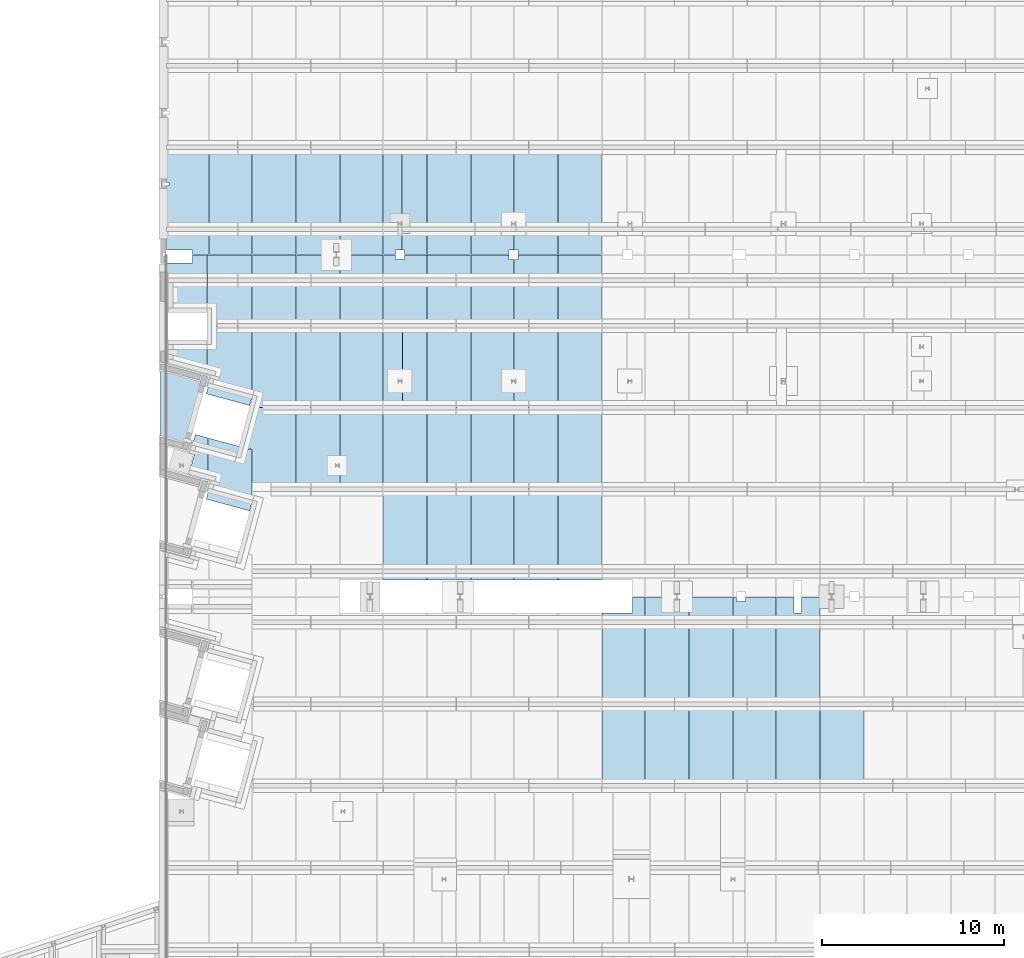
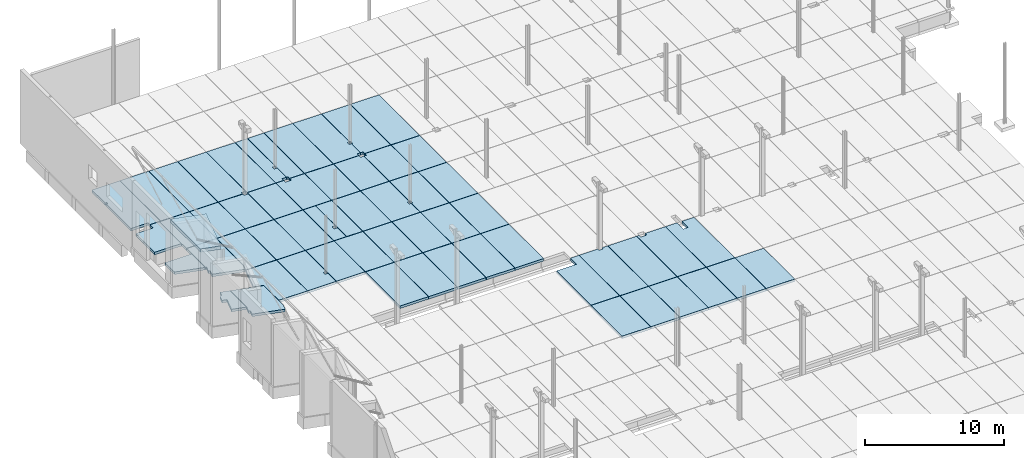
# One storey, part 49 of 59: 59 slabs.
"""IFC2X3 building model written with IfcOpenShell, lengths in metres."""

from ifc_helpers import new_model, entity, si_unit, converted_unit, derived_unit, frame, frame_2d, origin, origin_with_axes, place, context, subcontext, project, spatial, polyline, rectangle, outline, extrude, material, element, save


model = new_model("IFC2X3")

# Units and contexts
model_context = context("Model", 3, precision=1e-05, world=origin())
body_context = subcontext(model_context, "Body", "Model", "MODEL_VIEW")
ifc_project = project(units=[si_unit("LENGTHUNIT", "METRE"), si_unit("AREAUNIT", "SQUARE_METRE"), si_unit("VOLUMEUNIT", "CUBIC_METRE"), si_unit("MASSUNIT", "GRAM", prefix="KILO"), converted_unit("PLANEANGLEUNIT", "DEGREE", entity("IfcPlaneAngleMeasure", 0.0174532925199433), si_unit("PLANEANGLEUNIT", "RADIAN"), dimensions=[0, 0, 0, 0, 0, 0, 0]), derived_unit("THERMALTRANSMITTANCEUNIT", [(si_unit("POWERUNIT", "WATT"), 1), (si_unit("THERMODYNAMICTEMPERATUREUNIT", "KELVIN"), -1), (si_unit("LENGTHUNIT", "METRE"), -2)]), derived_unit("VOLUMETRICFLOWRATEUNIT", [(si_unit("LENGTHUNIT", "METRE"), 3), (converted_unit("TIMEUNIT", "hour", entity("IfcTimeMeasure", 3600.0), si_unit("TIMEUNIT", "SECOND"), dimensions=[0, 0, 1, 0, 0, 0, 0]), -1), (si_unit("LENGTHUNIT", "METRE"), -1)])], contexts=[model_context])

# Site, building, storey
site_placement = place(None, origin())
site = spatial("IfcSite", under=ifc_project, at=site_placement, Name="TWP_Speiseverteilzentrum SBW VZ II", CompositionType="ELEMENT")
building_placement = place(site_placement, origin())
building = spatial("IfcBuilding", under=site, at=building_placement, Name="Speiseverteilzentrum SBW VZ II", CompositionType="ELEMENT")
storey_placement = place(building_placement, frame((0.0, 0.0, 1.7307)))
storey = spatial("IfcBuildingStorey", under=building, at=storey_placement, Name="EG_Produktion_FFB", CompositionType="ELEMENT", Elevation=1.7307)

# Slabs
ifc_material_1 = material(Name="Stahlbeton")
slab_1_placement = place(storey_placement, frame((9.33999999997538, 59.6568273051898, 4.2)))
element("IfcSlab", 1, at=slab_1_placement, inside=storey, material=ifc_material_1, Name="Stb.-Rahmen", PredefinedType="ROOF", context=body_context, shape_type="SweptSolid", body=[
    extrude(outline(polyline([(0.0, 4.75349654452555), (0.0, 0.40340457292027), (1.49195659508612, 0.0), (2.58802923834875, 4.05372898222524), (0.0, 4.75349654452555)])), origin_with_axes(), (0.0, 0.0, 1.0), 0.3),
])
ifc_material_2 = material(Name="Stahlbetonfertigteil")
slab_2_placement = place(storey_placement, frame((28.7999999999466, 62.0100000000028, -0.47)))
element("IfcSlab", 2, at=slab_2_placement, inside=storey, material=ifc_material_2, Name="Stahlbetonfertigteilplatte", PredefinedType="BASESLAB", context=body_context, shape_type="SweptSolid", body=[
    extrude(outline(polyline([(0.0, 1.58790584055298), (0.100000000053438, 1.58790584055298), (0.100000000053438, 1.29790584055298), (0.0, 1.29790584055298), (0.0, 0.0), (2.38, 0.0), (2.38, 4.47999999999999), (0.0, 4.47999999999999), (0.0, 1.58790584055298)])), origin_with_axes(), (0.0, 0.0, 1.0), 0.22),
])
ifc_material_3 = material(Name="Stahlbetonfertigteil")
slab_3_placement = place(storey_placement, frame((26.3999999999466, 62.0100000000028, -0.47)))
element("IfcSlab", 3, at=slab_3_placement, inside=storey, material=ifc_material_3, Name="Stahlbetonfertigteilplatte", PredefinedType="BASESLAB", context=body_context, shape_type="SweptSolid", body=[
    extrude(outline(polyline([(2.20000000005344, 1.58790584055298), (2.38, 1.58790584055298), (2.38, 4.47999999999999), (0.0, 4.47999999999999), (0.0, 0.0), (2.38, 0.0), (2.38, 1.29790584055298), (2.20000000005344, 1.29790584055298), (2.20000000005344, 1.58790584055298)])), origin_with_axes(), (0.0, 0.0, 1.0), 0.22),
])
ifc_material_4 = material(Name="Stahlbetonfertigteil")
slab_4_placement = place(storey_placement, frame((21.5999999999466, 62.0100000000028, -0.47)))
element("IfcSlab", 4, at=slab_4_placement, inside=storey, material=ifc_material_4, Name="Stahlbetonfertigteilplatte", PredefinedType="BASESLAB", context=body_context, shape_type="SweptSolid", body=[
    extrude(outline(polyline([(0.750000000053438, 1.58790584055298), (1.03000000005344, 1.58790584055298), (1.03000000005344, 4.47999999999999), (0.0, 4.47999999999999), (0.0, 0.0), (1.03000000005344, 0.0), (1.03000000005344, 1.29790584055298), (0.750000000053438, 1.29790584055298), (0.750000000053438, 1.58790584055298)])), origin_with_axes(), (0.0, 0.0, 1.0), 0.22),
])
ifc_material_5 = material(Name="Stahlbetonfertigteil")
slab_5_placement = place(storey_placement, frame((22.65, 62.0100000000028, -0.47)))
element("IfcSlab", 5, at=slab_5_placement, inside=storey, material=ifc_material_5, Name="Stahlbetonfertigteilplatte", PredefinedType="BASESLAB", context=body_context, shape_type="SweptSolid", body=[
    extrude(rectangle(XDim=4.47999999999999, YDim=1.32999999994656, at=frame_2d((0.664999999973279, -2.23999999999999), x_axis=(0.0, -1.0))), frame((0.0, 4.47999999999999, 0.0), z_axis=(0.0, 0.0, 1.0), x_axis=(1.0, 0.0, 0.0)), (0.0, 0.0, 1.0), 0.22),
])
ifc_material_6 = material(Name="Stahlbetonfertigteil")
slab_6_placement = place(storey_placement, frame((16.7999999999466, 62.0100000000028, -0.47)))
element("IfcSlab", 6, at=slab_6_placement, inside=storey, material=ifc_material_6, Name="Stahlbetonfertigteilplatte", PredefinedType="BASESLAB", context=body_context, shape_type="SweptSolid", body=[
    extrude(rectangle(XDim=4.47999999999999, YDim=2.38, at=frame_2d((1.19, -2.23999999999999), x_axis=(0.0, -1.0))), frame((0.0, 4.47999999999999, 0.0), z_axis=(0.0, 0.0, 1.0), x_axis=(1.0, 0.0, 0.0)), (0.0, 0.0, 1.0), 0.22),
])
ifc_material_7 = material(Name="Stahlbetonfertigteil")
slab_7_placement = place(storey_placement, frame((19.1999999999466, 62.0100000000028, -0.47)))
element("IfcSlab", 7, at=slab_7_placement, inside=storey, material=ifc_material_7, Name="Stahlbetonfertigteilplatte", PredefinedType="BASESLAB", context=body_context, shape_type="SweptSolid", body=[
    extrude(rectangle(XDim=4.47999999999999, YDim=2.38, at=frame_2d((1.19, -2.23999999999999), x_axis=(0.0, -1.0))), frame((0.0, 4.47999999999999, 0.0), z_axis=(0.0, 0.0, 1.0), x_axis=(1.0, 0.0, 0.0)), (0.0, 0.0, 1.0), 0.22),
])
ifc_material_8 = material(Name="Stahlbetonfertigteil")
slab_8_placement = place(storey_placement, frame((19.1999999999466, 57.5100000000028, -0.47)))
element("IfcSlab", 8, at=slab_8_placement, inside=storey, material=ifc_material_8, Name="Stahlbetonfertigteilplatte", PredefinedType="BASESLAB", context=body_context, shape_type="SweptSolid", body=[
    extrude(rectangle(XDim=4.47999999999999, YDim=2.38, at=frame_2d((1.19, -2.23999999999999), x_axis=(0.0, -1.0))), frame((0.0, 4.47999999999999, 0.0), z_axis=(0.0, 0.0, 1.0), x_axis=(1.0, 0.0, 0.0)), (0.0, 0.0, 1.0), 0.22),
])
ifc_material_9 = material(Name="Stahlbetonfertigteil")
slab_9_placement = place(storey_placement, frame((21.5999999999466, 57.5100000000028, -0.47)))
element("IfcSlab", 9, at=slab_9_placement, inside=storey, material=ifc_material_9, Name="Stahlbetonfertigteilplatte", PredefinedType="BASESLAB", context=body_context, shape_type="SweptSolid", body=[
    extrude(rectangle(XDim=4.47999999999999, YDim=2.38, at=frame_2d((1.19, -2.23999999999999), x_axis=(0.0, -1.0))), frame((0.0, 4.47999999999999, 0.0), z_axis=(0.0, 0.0, 1.0), x_axis=(1.0, 0.0, 0.0)), (0.0, 0.0, 1.0), 0.22),
])
ifc_material_10 = material(Name="Stahlbetonfertigteil")
slab_10_placement = place(storey_placement, frame((23.9999999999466, 62.0100000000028, -0.47)))
element("IfcSlab", 10, at=slab_10_placement, inside=storey, material=ifc_material_10, Name="Stahlbetonfertigteilplatte", PredefinedType="BASESLAB", context=body_context, shape_type="SweptSolid", body=[
    extrude(rectangle(XDim=4.47999999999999, YDim=2.38, at=frame_2d((1.19, -2.23999999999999), x_axis=(0.0, -1.0))), frame((0.0, 4.47999999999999, 0.0), z_axis=(0.0, 0.0, 1.0), x_axis=(1.0, 0.0, 0.0)), (0.0, 0.0, 1.0), 0.22),
])
ifc_material_11 = material(Name="Stahlbetonfertigteil")
slab_11_placement = place(storey_placement, frame((23.9999999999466, 57.5100000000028, -0.47)))
element("IfcSlab", 11, at=slab_11_placement, inside=storey, material=ifc_material_11, Name="Stahlbetonfertigteilplatte", PredefinedType="BASESLAB", context=body_context, shape_type="SweptSolid", body=[
    extrude(rectangle(XDim=4.47999999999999, YDim=2.38, at=frame_2d((1.19, -2.23999999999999), x_axis=(0.0, -1.0))), frame((0.0, 4.47999999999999, 0.0), z_axis=(0.0, 0.0, 1.0), x_axis=(1.0, 0.0, 0.0)), (0.0, 0.0, 1.0), 0.22),
])
ifc_material_12 = material(Name="Stahlbetonfertigteil")
slab_12_placement = place(storey_placement, frame((26.3999999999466, 57.5100000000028, -0.47)))
element("IfcSlab", 12, at=slab_12_placement, inside=storey, material=ifc_material_12, Name="Stahlbetonfertigteilplatte", PredefinedType="BASESLAB", context=body_context, shape_type="SweptSolid", body=[
    extrude(rectangle(XDim=4.47999999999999, YDim=2.38, at=frame_2d((1.19, -2.23999999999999), x_axis=(0.0, -1.0))), frame((0.0, 4.47999999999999, 0.0), z_axis=(0.0, 0.0, 1.0), x_axis=(1.0, 0.0, 0.0)), (0.0, 0.0, 1.0), 0.22),
])
ifc_material_13 = material(Name="Stahlbetonfertigteil")
slab_13_placement = place(storey_placement, frame((31.1999999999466, 62.0100000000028, -0.47)))
element("IfcSlab", 13, at=slab_13_placement, inside=storey, material=ifc_material_13, Name="Stahlbetonfertigteilplatte", PredefinedType="BASESLAB", context=body_context, shape_type="SweptSolid", body=[
    extrude(rectangle(XDim=4.47999999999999, YDim=2.38, at=frame_2d((1.19, -2.23999999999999), x_axis=(0.0, -1.0))), frame((0.0, 4.47999999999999, 0.0), z_axis=(0.0, 0.0, 1.0), x_axis=(1.0, 0.0, 0.0)), (0.0, 0.0, 1.0), 0.22),
])
ifc_material_14 = material(Name="Stahlbetonfertigteil")
slab_14_placement = place(storey_placement, frame((28.7999999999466, 57.5100000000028, -0.47)))
element("IfcSlab", 14, at=slab_14_placement, inside=storey, material=ifc_material_14, Name="Stahlbetonfertigteilplatte", PredefinedType="BASESLAB", context=body_context, shape_type="SweptSolid", body=[
    extrude(rectangle(XDim=4.47999999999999, YDim=2.38, at=frame_2d((1.19, -2.23999999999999), x_axis=(0.0, -1.0))), frame((0.0, 4.47999999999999, 0.0), z_axis=(0.0, 0.0, 1.0), x_axis=(1.0, 0.0, 0.0)), (0.0, 0.0, 1.0), 0.22),
])
ifc_material_15 = material(Name="Stahlbetonfertigteil")
slab_15_placement = place(storey_placement, frame((31.1999999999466, 57.5100000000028, -0.47)))
element("IfcSlab", 15, at=slab_15_placement, inside=storey, material=ifc_material_15, Name="Stahlbetonfertigteilplatte", PredefinedType="BASESLAB", context=body_context, shape_type="SweptSolid", body=[
    extrude(rectangle(XDim=4.47999999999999, YDim=2.38, at=frame_2d((1.19, -2.23999999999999), x_axis=(0.0, -1.0))), frame((0.0, 4.47999999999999, 0.0), z_axis=(0.0, 0.0, 1.0), x_axis=(1.0, 0.0, 0.0)), (0.0, 0.0, 1.0), 0.22),
])
ifc_material_16 = material(Name="Stahlbetonfertigteil")
slab_16_placement = place(storey_placement, frame((16.7999999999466, 57.5100000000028, -0.47)))
element("IfcSlab", 16, at=slab_16_placement, inside=storey, material=ifc_material_16, Name="Stahlbetonfertigteilplatte", PredefinedType="BASESLAB", context=body_context, shape_type="SweptSolid", body=[
    extrude(outline(polyline([(2.12991185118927, 1.43253675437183), (2.38, 1.43253675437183), (2.38, 4.47999999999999), (0.0, 4.47999999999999), (0.0, 0.0), (2.38, 0.0), (2.38, 1.18253675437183), (2.12991185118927, 1.18253675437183), (2.12991185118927, 1.43253675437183)])), origin_with_axes(), (0.0, 0.0, 1.0), 0.22),
])
ifc_material_17 = material(Name="Stahlbetonfertigteil")
slab_17_placement = place(storey_placement, frame((33.5999999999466, 41.2100000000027, -0.47)))
element("IfcSlab", 17, at=slab_17_placement, inside=storey, material=ifc_material_17, Name="Stahlbetonfertigteilplatte", PredefinedType="BASESLAB", context=body_context, shape_type="SweptSolid", body=[
    extrude(rectangle(XDim=4.47999999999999, YDim=2.38, at=frame_2d((1.19, -2.23999999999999), x_axis=(0.0, -1.0))), frame((0.0, 4.47999999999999, 0.0), z_axis=(0.0, 0.0, 1.0), x_axis=(1.0, 0.0, 0.0)), (0.0, 0.0, 1.0), 0.22),
])
ifc_material_18 = material(Name="Stahlbetonfertigteil")
slab_18_placement = place(storey_placement, frame((35.9999999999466, 41.2100000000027, -0.47)))
element("IfcSlab", 18, at=slab_18_placement, inside=storey, material=ifc_material_18, Name="Stahlbetonfertigteilplatte", PredefinedType="BASESLAB", context=body_context, shape_type="SweptSolid", body=[
    extrude(rectangle(XDim=4.47999999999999, YDim=2.38, at=frame_2d((1.19, -2.23999999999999), x_axis=(0.0, -1.0))), frame((0.0, 4.47999999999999, 0.0), z_axis=(0.0, 0.0, 1.0), x_axis=(1.0, 0.0, 0.0)), (0.0, 0.0, 1.0), 0.22),
])
ifc_material_19 = material(Name="Stahlbetonfertigteil")
slab_19_placement = place(storey_placement, frame((38.3999999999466, 41.2100000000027, -0.47)))
element("IfcSlab", 19, at=slab_19_placement, inside=storey, material=ifc_material_19, Name="Stahlbetonfertigteilplatte", PredefinedType="BASESLAB", context=body_context, shape_type="SweptSolid", body=[
    extrude(rectangle(XDim=4.47999999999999, YDim=2.38, at=frame_2d((1.19, -2.23999999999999), x_axis=(0.0, -1.0))), frame((0.0, 4.47999999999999, 0.0), z_axis=(0.0, 0.0, 1.0), x_axis=(1.0, 0.0, 0.0)), (0.0, 0.0, 1.0), 0.22),
])
ifc_material_20 = material(Name="Stahlbetonfertigteil")
slab_20_placement = place(storey_placement, frame((40.7999999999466, 41.2100000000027, -0.47)))
element("IfcSlab", 20, at=slab_20_placement, inside=storey, material=ifc_material_20, Name="Stahlbetonfertigteilplatte", PredefinedType="BASESLAB", context=body_context, shape_type="SweptSolid", body=[
    extrude(rectangle(XDim=4.47999999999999, YDim=2.38, at=frame_2d((1.19, -2.23999999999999), x_axis=(0.0, -1.0))), frame((0.0, 4.47999999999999, 0.0), z_axis=(0.0, 0.0, 1.0), x_axis=(1.0, 0.0, 0.0)), (0.0, 0.0, 1.0), 0.22),
])
ifc_material_21 = material(Name="Stahlbetonfertigteil")
slab_21_placement = place(storey_placement, frame((43.1999999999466, 41.2100000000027, -0.47)))
element("IfcSlab", 21, at=slab_21_placement, inside=storey, material=ifc_material_21, Name="Stahlbetonfertigteilplatte", PredefinedType="BASESLAB", context=body_context, shape_type="SweptSolid", body=[
    extrude(rectangle(XDim=4.47999999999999, YDim=2.38, at=frame_2d((1.19, -2.23999999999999), x_axis=(0.0, -1.0))), frame((0.0, 4.47999999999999, 0.0), z_axis=(0.0, 0.0, 1.0), x_axis=(1.0, 0.0, 0.0)), (0.0, 0.0, 1.0), 0.22),
])
ifc_material_22 = material(Name="Stahlbetonfertigteil")
slab_22_placement = place(storey_placement, frame((45.5999999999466, 41.2100000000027, -0.47)))
element("IfcSlab", 22, at=slab_22_placement, inside=storey, material=ifc_material_22, Name="Stahlbetonfertigteilplatte", PredefinedType="BASESLAB", context=body_context, shape_type="SweptSolid", body=[
    extrude(rectangle(XDim=4.47999999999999, YDim=2.38, at=frame_2d((1.19, -2.23999999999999), x_axis=(0.0, -1.0))), frame((0.0, 4.47999999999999, 0.0), z_axis=(0.0, 0.0, 1.0), x_axis=(1.0, 0.0, 0.0)), (0.0, 0.0, 1.0), 0.22),
])
ifc_material_23 = material(Name="Stahlbetonfertigteil")
slab_23_placement = place(storey_placement, frame((22.63325, 70.4104127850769, -0.47)))
element("IfcSlab", 23, at=slab_23_placement, inside=storey, material=ifc_material_23, Name="Stahlbetonfertigteilplatte", PredefinedType="BASESLAB", context=body_context, shape_type="SweptSolid", body=[
    extrude(outline(polyline([(1.34674999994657, 5.87958721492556), (0.0, 5.87958721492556), (0.0, 0.239587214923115), (0.116749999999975, 0.239587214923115), (0.116749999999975, 0.0), (1.34674999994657, 0.0), (1.34674999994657, 5.87958721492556)])), origin_with_axes(), (0.0, 0.0, 1.0), 0.22),
])
ifc_material_24 = material(Name="Stahlbetonfertigteil")
slab_24_placement = place(storey_placement, frame((16.7999999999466, 70.4104127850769, -0.47)))
element("IfcSlab", 24, at=slab_24_placement, inside=storey, material=ifc_material_24, Name="Stahlbetonfertigteilplatte", PredefinedType="BASESLAB", context=body_context, shape_type="SweptSolid", body=[
    extrude(outline(polyline([(2.38, 0.17469041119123), (2.38, 5.87958721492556), (0.0, 5.87958721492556), (0.0, 0.0), (2.02000000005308, 0.0), (2.02000000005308, 0.17469041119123), (2.38, 0.17469041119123)])), origin_with_axes(), (0.0, 0.0, 1.0), 0.22),
])
ifc_material_25 = material(Name="Stahlbetonfertigteil")
slab_25_placement = place(storey_placement, frame((16.7999999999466, 66.5102063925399, -0.47)))
element("IfcSlab", 25, at=slab_25_placement, inside=storey, material=ifc_material_25, Name="Stahlbetonfertigteilplatte", PredefinedType="BASESLAB", context=body_context, shape_type="SweptSolid", body=[
    extrude(outline(polyline([(0.0, 0.0), (2.38, 0.0), (2.38, 3.70489680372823), (2.02000000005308, 3.70489680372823), (2.02000000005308, 3.8799999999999), (0.0, 3.8799999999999), (0.0, 0.0)])), origin_with_axes(), (0.0, 0.0, 1.0), 0.22),
])
ifc_material_26 = material(Name="Stahlbetonfertigteil")
slab_26_placement = place(storey_placement, frame((11.9999999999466, 70.4104127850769, -0.47)))
element("IfcSlab", 26, at=slab_26_placement, inside=storey, material=ifc_material_26, Name="Stahlbetonfertigteilplatte", PredefinedType="BASESLAB", context=body_context, shape_type="SweptSolid", body=[
    extrude(rectangle(XDim=5.87958721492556, YDim=2.38, at=frame_2d((1.19, -2.93979360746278), x_axis=(0.0, -1.0))), frame((0.0, 5.87958721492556, 0.0), z_axis=(0.0, 0.0, 1.0), x_axis=(1.0, 0.0, 0.0)), (0.0, 0.0, 1.0), 0.22),
])
ifc_material_27 = material(Name="Stahlbetonfertigteil")
slab_27_placement = place(storey_placement, frame((14.3999999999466, 70.4104127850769, -0.47)))
element("IfcSlab", 27, at=slab_27_placement, inside=storey, material=ifc_material_27, Name="Stahlbetonfertigteilplatte", PredefinedType="BASESLAB", context=body_context, shape_type="SweptSolid", body=[
    extrude(rectangle(XDim=5.87958721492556, YDim=2.38, at=frame_2d((1.19, -2.93979360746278), x_axis=(0.0, -1.0))), frame((0.0, 5.87958721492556, 0.0), z_axis=(0.0, 0.0, 1.0), x_axis=(1.0, 0.0, 0.0)), (0.0, 0.0, 1.0), 0.22),
])
ifc_material_28 = material(Name="Stahlbetonfertigteil")
slab_28_placement = place(storey_placement, frame((14.3999999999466, 66.5102063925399, -0.47)))
element("IfcSlab", 28, at=slab_28_placement, inside=storey, material=ifc_material_28, Name="Stahlbetonfertigteilplatte", PredefinedType="BASESLAB", context=body_context, shape_type="SweptSolid", body=[
    extrude(rectangle(XDim=3.8799999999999, YDim=2.38, at=frame_2d((1.19, -1.93999999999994), x_axis=(0.0, -1.0))), frame((0.0, 3.8799999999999, 0.0), z_axis=(0.0, 0.0, 1.0), x_axis=(1.0, 0.0, 0.0)), (0.0, 0.0, 1.0), 0.22),
])
ifc_material_29 = material(Name="Stahlbetonfertigteil")
slab_29_placement = place(storey_placement, frame((26.3999999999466, 66.5102063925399, -0.47)))
element("IfcSlab", 29, at=slab_29_placement, inside=storey, material=ifc_material_29, Name="Stahlbetonfertigteilplatte", PredefinedType="BASESLAB", context=body_context, shape_type="SweptSolid", body=[
    extrude(outline(polyline([(0.0, 3.8799999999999), (0.0, 0.0), (2.38, 0.0), (2.38, 3.63979360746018), (2.10000000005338, 3.63979360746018), (2.10000000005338, 3.8799999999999), (0.0, 3.8799999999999)])), origin_with_axes(), (0.0, 0.0, 1.0), 0.22),
])
ifc_material_30 = material(Name="Stahlbetonfertigteil")
slab_30_placement = place(storey_placement, frame((28.7999999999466, 66.5102063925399, -0.47)))
element("IfcSlab", 30, at=slab_30_placement, inside=storey, material=ifc_material_30, Name="Stahlbetonfertigteilplatte", PredefinedType="BASESLAB", context=body_context, shape_type="SweptSolid", body=[
    extrude(outline(polyline([(0.200000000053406, 3.63979360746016), (0.0, 3.63979360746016), (0.0, 0.0), (2.38, 0.0), (2.38, 3.8799999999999), (0.200000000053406, 3.8799999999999), (0.200000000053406, 3.63979360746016)])), origin_with_axes(), (0.0, 0.0, 1.0), 0.22),
])
ifc_material_31 = material(Name="Stahlbetonfertigteil")
slab_31_placement = place(storey_placement, frame((21.5999999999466, 66.5102063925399, -0.47)))
element("IfcSlab", 31, at=slab_31_placement, inside=storey, material=ifc_material_31, Name="Stahlbetonfertigteilplatte", PredefinedType="BASESLAB", context=body_context, shape_type="SweptSolid", body=[
    extrude(outline(polyline([(0.65000000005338, 3.8799999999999), (0.0, 3.8799999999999), (0.0, 0.0), (2.38, 0.0), (2.38, 3.8799999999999), (1.15000000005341, 3.8799999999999), (1.15000000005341, 3.63979360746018), (0.65000000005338, 3.63979360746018), (0.65000000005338, 3.8799999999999)])), origin_with_axes(), (0.0, 0.0, 1.0), 0.22),
])
ifc_material_32 = material(Name="Stahlbetonfertigteil")
slab_32_placement = place(storey_placement, frame((31.1999999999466, 52.51, -0.47)))
element("IfcSlab", 32, at=slab_32_placement, inside=storey, material=ifc_material_32, Name="Stahlbetonfertigteilplatte", PredefinedType="BASESLAB", context=body_context, shape_type="SweptSolid", body=[
    extrude(rectangle(XDim=4.9800000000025, YDim=2.38, at=frame_2d((1.19, -2.49000000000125), x_axis=(0.0, -1.0))), frame((0.0, 4.9800000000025, 0.0), z_axis=(0.0, 0.0, 1.0), x_axis=(1.0, 0.0, 0.0)), (0.0, 0.0, 1.0), 0.22),
])
ifc_material_33 = material(Name="Stahlbetonfertigteil")
slab_33_placement = place(storey_placement, frame((28.7999999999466, 52.51, -0.47)))
element("IfcSlab", 33, at=slab_33_placement, inside=storey, material=ifc_material_33, Name="Stahlbetonfertigteilplatte", PredefinedType="BASESLAB", context=body_context, shape_type="SweptSolid", body=[
    extrude(rectangle(XDim=4.9800000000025, YDim=2.38, at=frame_2d((1.19, -2.49000000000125), x_axis=(0.0, -1.0))), frame((0.0, 4.9800000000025, 0.0), z_axis=(0.0, 0.0, 1.0), x_axis=(1.0, 0.0, 0.0)), (0.0, 0.0, 1.0), 0.22),
])
ifc_material_34 = material(Name="Stahlbetonfertigteil")
slab_34_placement = place(storey_placement, frame((26.3999999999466, 52.51, -0.47)))
element("IfcSlab", 34, at=slab_34_placement, inside=storey, material=ifc_material_34, Name="Stahlbetonfertigteilplatte", PredefinedType="BASESLAB", context=body_context, shape_type="SweptSolid", body=[
    extrude(rectangle(XDim=4.9800000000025, YDim=2.38, at=frame_2d((1.19, -2.49000000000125), x_axis=(0.0, -1.0))), frame((0.0, 4.9800000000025, 0.0), z_axis=(0.0, 0.0, 1.0), x_axis=(1.0, 0.0, 0.0)), (0.0, 0.0, 1.0), 0.22),
])
ifc_material_35 = material(Name="Stahlbetonfertigteil")
slab_35_placement = place(storey_placement, frame((23.9999999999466, 52.51, -0.47)))
element("IfcSlab", 35, at=slab_35_placement, inside=storey, material=ifc_material_35, Name="Stahlbetonfertigteilplatte", PredefinedType="BASESLAB", context=body_context, shape_type="SweptSolid", body=[
    extrude(rectangle(XDim=4.9800000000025, YDim=2.38, at=frame_2d((1.19, -2.49000000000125), x_axis=(0.0, -1.0))), frame((0.0, 4.9800000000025, 0.0), z_axis=(0.0, 0.0, 1.0), x_axis=(1.0, 0.0, 0.0)), (0.0, 0.0, 1.0), 0.22),
])
ifc_material_36 = material(Name="Stahlbetonfertigteil")
slab_36_placement = place(storey_placement, frame((21.5999999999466, 52.51, -0.47)))
element("IfcSlab", 36, at=slab_36_placement, inside=storey, material=ifc_material_36, Name="Stahlbetonfertigteilplatte", PredefinedType="BASESLAB", context=body_context, shape_type="SweptSolid", body=[
    extrude(rectangle(XDim=4.9800000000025, YDim=2.38, at=frame_2d((1.19, -2.49000000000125), x_axis=(0.0, -1.0))), frame((0.0, 4.9800000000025, 0.0), z_axis=(0.0, 0.0, 1.0), x_axis=(1.0, 0.0, 0.0)), (0.0, 0.0, 1.0), 0.22),
])
ifc_material_37 = material(Name="Stahlbetonfertigteil")
slab_37_placement = place(storey_placement, frame((19.1999999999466, 70.4104127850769, -0.47)))
element("IfcSlab", 37, at=slab_37_placement, inside=storey, material=ifc_material_37, Name="Stahlbetonfertigteilplatte", PredefinedType="BASESLAB", context=body_context, shape_type="SweptSolid", body=[
    extrude(rectangle(XDim=5.87958721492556, YDim=2.38, at=frame_2d((1.19, -2.93979360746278), x_axis=(0.0, -1.0))), frame((0.0, 5.87958721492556, 0.0), z_axis=(0.0, 0.0, 1.0), x_axis=(1.0, 0.0, 0.0)), (0.0, 0.0, 1.0), 0.22),
])
ifc_material_38 = material(Name="Stahlbetonfertigteil")
slab_38_placement = place(storey_placement, frame((19.1999999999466, 66.5102063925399, -0.47)))
element("IfcSlab", 38, at=slab_38_placement, inside=storey, material=ifc_material_38, Name="Stahlbetonfertigteilplatte", PredefinedType="BASESLAB", context=body_context, shape_type="SweptSolid", body=[
    extrude(rectangle(XDim=3.8799999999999, YDim=2.38, at=frame_2d((1.19, -1.93999999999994), x_axis=(0.0, -1.0))), frame((0.0, 3.8799999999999, 0.0), z_axis=(0.0, 0.0, 1.0), x_axis=(1.0, 0.0, 0.0)), (0.0, 0.0, 1.0), 0.22),
])
ifc_material_39 = material(Name="Stahlbetonfertigteil")
slab_39_placement = place(storey_placement, frame((23.9999999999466, 70.4104127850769, -0.47)))
element("IfcSlab", 39, at=slab_39_placement, inside=storey, material=ifc_material_39, Name="Stahlbetonfertigteilplatte", PredefinedType="BASESLAB", context=body_context, shape_type="SweptSolid", body=[
    extrude(rectangle(XDim=5.87958721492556, YDim=2.38, at=frame_2d((1.19, -2.93979360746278), x_axis=(0.0, -1.0))), frame((0.0, 5.87958721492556, 0.0), z_axis=(0.0, 0.0, 1.0), x_axis=(1.0, 0.0, 0.0)), (0.0, 0.0, 1.0), 0.22),
])
ifc_material_40 = material(Name="Stahlbetonfertigteil")
slab_40_placement = place(storey_placement, frame((23.9999999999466, 66.5102063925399, -0.47)))
element("IfcSlab", 40, at=slab_40_placement, inside=storey, material=ifc_material_40, Name="Stahlbetonfertigteilplatte", PredefinedType="BASESLAB", context=body_context, shape_type="SweptSolid", body=[
    extrude(rectangle(XDim=3.8799999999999, YDim=2.38, at=frame_2d((1.19, -1.93999999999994), x_axis=(0.0, -1.0))), frame((0.0, 3.8799999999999, 0.0), z_axis=(0.0, 0.0, 1.0), x_axis=(1.0, 0.0, 0.0)), (0.0, 0.0, 1.0), 0.22),
])
ifc_material_41 = material(Name="Stahlbetonfertigteil")
slab_41_placement = place(storey_placement, frame((31.1999999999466, 70.4104127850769, -0.47)))
element("IfcSlab", 41, at=slab_41_placement, inside=storey, material=ifc_material_41, Name="Stahlbetonfertigteilplatte", PredefinedType="BASESLAB", context=body_context, shape_type="SweptSolid", body=[
    extrude(rectangle(XDim=5.87958721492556, YDim=2.38, at=frame_2d((1.19, -2.93979360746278), x_axis=(0.0, -1.0))), frame((0.0, 5.87958721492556, 0.0), z_axis=(0.0, 0.0, 1.0), x_axis=(1.0, 0.0, 0.0)), (0.0, 0.0, 1.0), 0.22),
])
ifc_material_42 = material(Name="Stahlbetonfertigteil")
slab_42_placement = place(storey_placement, frame((31.1999999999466, 66.5102063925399, -0.47)))
element("IfcSlab", 42, at=slab_42_placement, inside=storey, material=ifc_material_42, Name="Stahlbetonfertigteilplatte", PredefinedType="BASESLAB", context=body_context, shape_type="SweptSolid", body=[
    extrude(rectangle(XDim=3.8799999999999, YDim=2.38, at=frame_2d((1.19, -1.93999999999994), x_axis=(0.0, -1.0))), frame((0.0, 3.8799999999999, 0.0), z_axis=(0.0, 0.0, 1.0), x_axis=(1.0, 0.0, 0.0)), (0.0, 0.0, 1.0), 0.22),
])
ifc_material_43 = material(Name="Stahlbetonfertigteil")
slab_43_placement = place(storey_placement, frame((26.3999999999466, 70.4104127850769, -0.47)))
element("IfcSlab", 43, at=slab_43_placement, inside=storey, material=ifc_material_43, Name="Stahlbetonfertigteilplatte", PredefinedType="BASESLAB", context=body_context, shape_type="SweptSolid", body=[
    extrude(outline(polyline([(2.21000000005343, 1.83408872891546), (2.38, 1.83408872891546), (2.38, 5.87958721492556), (0.0, 5.87958721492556), (0.0, 0.0), (2.10000000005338, 0.0), (2.10000000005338, 0.239587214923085), (2.38, 0.239587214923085), (2.38, 1.56408872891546), (2.21000000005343, 1.56408872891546), (2.21000000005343, 1.83408872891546)])), origin_with_axes(), (0.0, 0.0, 1.0), 0.22),
])
ifc_material_44 = material(Name="Stahlbetonfertigteil")
slab_44_placement = place(storey_placement, frame((28.7999999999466, 70.4104127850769, -0.47)))
element("IfcSlab", 44, at=slab_44_placement, inside=storey, material=ifc_material_44, Name="Stahlbetonfertigteilplatte", PredefinedType="BASESLAB", context=body_context, shape_type="SweptSolid", body=[
    extrude(outline(polyline([(0.200000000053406, 0.239587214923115), (0.200000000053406, 0.0), (2.38, 0.0), (2.38, 5.87958721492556), (0.0, 5.87958721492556), (0.0, 1.83408872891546), (0.0900000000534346, 1.83408872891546), (0.0900000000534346, 1.56408872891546), (0.0, 1.56408872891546), (0.0, 0.239587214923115), (0.200000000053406, 0.239587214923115)])), origin_with_axes(), (0.0, 0.0, 1.0), 0.22),
])
ifc_material_45 = material(Name="Stahlbetonfertigteil")
slab_45_placement = place(storey_placement, frame((21.5999999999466, 70.4104127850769, -0.47)))
element("IfcSlab", 45, at=slab_45_placement, inside=storey, material=ifc_material_45, Name="Stahlbetonfertigteilplatte", PredefinedType="BASESLAB", context=body_context, shape_type="SweptSolid", body=[
    extrude(outline(polyline([(0.773250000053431, 1.82408872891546), (1.01325000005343, 1.82408872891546), (1.01325000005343, 5.87958721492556), (0.0, 5.87958721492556), (0.0, 0.0), (0.65000000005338, 0.0), (0.65000000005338, 0.239587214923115), (1.01325000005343, 0.239587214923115), (1.01325000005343, 1.57408872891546), (0.773250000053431, 1.57408872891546), (0.773250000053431, 1.82408872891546)])), origin_with_axes(), (0.0, 0.0, 1.0), 0.22),
])
ifc_material_46 = material(Name="Stahlbetonfertigteil")
slab_46_placement = place(storey_placement, frame((43.1999999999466, 45.7100000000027, -0.47)))
element("IfcSlab", 46, at=slab_46_placement, inside=storey, material=ifc_material_46, Name="Stahlbetonfertigteilplatte", PredefinedType="BASESLAB", context=body_context, shape_type="SweptSolid", body=[
    extrude(outline(polyline([(0.975000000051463, 5.87999999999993), (0.0, 5.87999999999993), (0.0, 0.0), (2.38, 0.0), (2.38, 5.87999999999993), (1.37500000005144, 5.87999999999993), (1.37500000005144, 4.98999999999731), (0.975000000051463, 4.98999999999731), (0.975000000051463, 5.87999999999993)])), origin_with_axes(), (0.0, 0.0, 1.0), 0.22),
])
ifc_material_47 = material(Name="Stahlbetonfertigteil")
slab_47_placement = place(storey_placement, frame((33.5999999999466, 45.7100000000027, -0.47)))
element("IfcSlab", 47, at=slab_47_placement, inside=storey, material=ifc_material_47, Name="Stahlbetonfertigteilplatte", PredefinedType="BASESLAB", context=body_context, shape_type="SweptSolid", body=[
    extrude(outline(polyline([(1.67500000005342, 4.98999999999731), (0.0, 4.98999999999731), (0.0, 0.0), (2.38, 0.0), (2.38, 5.87999999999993), (1.67500000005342, 5.87999999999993), (1.67500000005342, 4.98999999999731)])), origin_with_axes(), (0.0, 0.0, 1.0), 0.22),
])
ifc_material_48 = material(Name="Stahlbetonfertigteil")
slab_48_placement = place(storey_placement, frame((38.3999999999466, 45.7100000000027, -0.47)))
element("IfcSlab", 48, at=slab_48_placement, inside=storey, material=ifc_material_48, Name="Stahlbetonfertigteilplatte", PredefinedType="BASESLAB", context=body_context, shape_type="SweptSolid", body=[
    extrude(rectangle(XDim=5.87999999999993, YDim=2.38, at=frame_2d((1.19, -2.93999999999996), x_axis=(0.0, -1.0))), frame((0.0, 5.87999999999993, 0.0), z_axis=(0.0, 0.0, 1.0), x_axis=(1.0, 0.0, 0.0)), (0.0, 0.0, 1.0), 0.22),
])
ifc_material_49 = material(Name="Stahlbetonfertigteil")
slab_49_placement = place(storey_placement, frame((40.7999999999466, 45.7100000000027, -0.47)))
element("IfcSlab", 49, at=slab_49_placement, inside=storey, material=ifc_material_49, Name="Stahlbetonfertigteilplatte", PredefinedType="BASESLAB", context=body_context, shape_type="SweptSolid", body=[
    extrude(outline(polyline([(2.38, 5.87999999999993), (0.700000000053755, 5.87999999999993), (0.700000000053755, 5.6399999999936), (0.200000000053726, 5.6399999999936), (0.200000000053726, 5.87999999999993), (0.0, 5.87999999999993), (0.0, 0.0), (2.38, 0.0), (2.38, 5.87999999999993)])), origin_with_axes(), (0.0, 0.0, 1.0), 0.22),
])
ifc_material_50 = material(Name="Stahlbetonfertigteil")
slab_50_placement = place(storey_placement, frame((35.9999999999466, 45.7100000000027, -0.47)))
element("IfcSlab", 50, at=slab_50_placement, inside=storey, material=ifc_material_50, Name="Stahlbetonfertigteilplatte", PredefinedType="BASESLAB", context=body_context, shape_type="SweptSolid", body=[
    extrude(outline(polyline([(1.55500000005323, 5.87999999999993), (0.0, 5.87999999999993), (0.0, 0.0), (2.38, 0.0), (2.38, 5.87999999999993), (1.89500000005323, 5.87999999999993), (1.89500000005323, 5.71510319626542), (1.55500000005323, 5.71510319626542), (1.55500000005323, 5.87999999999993)])), origin_with_axes(), (0.0, 0.0, 1.0), 0.22),
])
ifc_material_51 = material(Name="Stahlbetonfertigteil")
slab_51_placement = place(storey_placement, frame((9.65999999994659, 70.4104127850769, -0.47)))
element("IfcSlab", 51, at=slab_51_placement, inside=storey, material=ifc_material_51, Name="Stahlbetonfertigteilplatte", PredefinedType="BASESLAB", context=body_context, shape_type="SweptSolid", body=[
    extrude(outline(polyline([(2.32, 5.87958721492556), (0.0, 5.87958721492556), (0.0, 3.97433987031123), (0.150000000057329, 3.97433987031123), (0.150000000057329, 3.80933987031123), (0.0, 3.80933987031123), (0.0, 0.259587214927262), (1.44000000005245, 0.259587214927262), (1.44000000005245, 0.0), (2.32, 0.0), (2.32, 5.87958721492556)])), origin_with_axes(), (0.0, 0.0, 1.0), 0.22),
])
ifc_material_52 = material(Name="Stahlbetonfertigteil")
slab_52_placement = place(storey_placement, frame((14.2341008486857, 62.0100000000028, -0.47)))
element("IfcSlab", 52, at=slab_52_placement, inside=storey, material=ifc_material_52, Name="Stahlbetonfertigteilplatte", PredefinedType="BASESLAB", context=body_context, shape_type="SweptSolid", body=[
    extrude(outline(polyline([(0.0, 0.0), (2.54589915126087, 0.0), (2.54589915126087, 4.47999999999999), (0.165899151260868, 4.47999999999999), (0.165899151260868, 0.613563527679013), (0.0, 0.0)])), origin_with_axes(), (0.0, 0.0, 1.0), 0.22),
])
ifc_material_53 = material(Name="Stahlbetonfertigteil")
slab_53_placement = place(storey_placement, frame((13.6599743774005, 57.5100000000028, -0.47)))
element("IfcSlab", 53, at=slab_53_placement, inside=storey, material=ifc_material_53, Name="Stahlbetonfertigteilplatte", PredefinedType="BASESLAB", context=body_context, shape_type="SweptSolid", body=[
    extrude(outline(polyline([(3.12002562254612, 4.47999999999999), (0.740025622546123, 4.47999999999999), (0.570014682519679, 4.48479290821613), (0.0, 2.37664336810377), (0.740025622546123, 2.17655060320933), (0.740025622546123, 0.0), (3.12002562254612, 0.0), (3.12002562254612, 4.47999999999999)])), origin_with_axes(), (0.0, 0.0, 1.0), 0.22),
])
ifc_material_54 = material(Name="Stahlbetonfertigteil")
slab_54_placement = place(storey_placement, frame((11.8264826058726, 56.3184688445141, -0.47)))
element("IfcSlab", 54, at=slab_54_placement, inside=storey, material=ifc_material_54, Name="Stahlbetonfertigteilplatte", PredefinedType="BASESLAB", context=body_context, shape_type="SweptSolid", body=[
    extrude(outline(polyline([(0.137993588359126, 4.00589575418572), (0.137993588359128, 1.61895976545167), (0.0, 1.10860252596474), (0.139973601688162, 1.07075558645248), (0.0251277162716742, 0.646008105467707), (2.41433229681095, 0.0), (2.55351739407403, 0.514763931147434), (2.55351739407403, 3.35277129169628), (0.137993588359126, 4.00589575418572)])), origin_with_axes(), (0.0, 0.0, 1.0), 0.22),
])
ifc_material_55 = material(Name="Stahlbetonfertigteil")
slab_55_placement = place(storey_placement, frame((10.8348153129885, 57.9441996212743, -0.47)))
element("IfcSlab", 55, at=slab_55_placement, inside=storey, material=ifc_material_55, Name="Stahlbetonfertigteilplatte", PredefinedType="BASESLAB", context=body_context, shape_type="SweptSolid", body=[
    extrude(outline(polyline([(0.156608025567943, 2.18746487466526), (0.0, 1.60826376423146), (0.366827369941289, 1.50907868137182), (0.0371995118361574, 0.289978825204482), (1.10966088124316, 0.0), (1.10966088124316, 2.38557270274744), (0.411427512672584, 2.57436541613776), (0.296581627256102, 2.14961793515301), (0.156608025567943, 2.18746487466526)])), origin_with_axes(), (0.0, 0.0, 1.0), 0.22),
])
ifc_material_56 = material(Name="Stahlbetonfertigteil")
slab_56_placement = place(storey_placement, frame((9.65999999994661, 63.7573238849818, -0.47)))
element("IfcSlab", 56, at=slab_56_placement, inside=storey, material=ifc_material_56, Name="Stahlbetonfertigteilplatte", PredefinedType="BASESLAB", context=body_context, shape_type="SweptSolid", body=[
    extrude(outline(polyline([(2.21000000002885, 0.0), (2.21000000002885, 1.95897219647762), (0.0, 1.95897219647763), (0.0, 0.597553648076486), (2.21000000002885, 0.0)])), origin_with_axes(), (0.0, 0.0, 1.0), 0.22),
])
ifc_material_57 = material(Name="Stahlbetonfertigteil")
slab_57_placement = place(storey_placement, frame((11.8264826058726, 62.1114557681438, -0.47)))
element("IfcSlab", 57, at=slab_57_placement, inside=storey, material=ifc_material_57, Name="Stahlbetonfertigteilplatte", PredefinedType="BASESLAB", context=body_context, shape_type="SweptSolid", body=[
    extrude(outline(polyline([(0.0, 1.10860252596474), (0.139973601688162, 1.07075558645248), (0.0251277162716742, 0.646008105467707), (2.41433229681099, 0.0), (2.55351739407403, 0.514763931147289), (2.55351739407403, 4.37854423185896), (0.0635173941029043, 4.37854423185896), (0.0635173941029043, 1.64046039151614), (0.138337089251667, 1.62023017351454), (0.0, 1.10860252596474)])), origin_with_axes(), (0.0, 0.0, 1.0), 0.22),
])
ifc_material_58 = material(Name="Stahlbetonfertigteil")
slab_58_placement = place(storey_placement, frame((9.65999999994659, 67.2162960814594, -0.47)))
element("IfcSlab", 58, at=slab_58_placement, inside=storey, material=ifc_material_58, Name="Stahlbetonfertigteilplatte", PredefinedType="BASESLAB", context=body_context, shape_type="SweptSolid", body=[
    extrude(outline(polyline([(0.0, 0.0), (2.21000000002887, 0.0), (2.21000000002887, 3.17391031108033), (1.44000000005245, 3.17391031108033), (1.44000000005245, 2.73366595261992), (0.0, 2.73366595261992), (0.0, 0.0)])), origin_with_axes(), (0.0, 0.0, 1.0), 0.22),
])
ifc_material_59 = material(Name="Stahlbetonfertigteil")
slab_59_placement = place(storey_placement, frame((11.8899999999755, 66.5102063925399, -0.47)))
element("IfcSlab", 59, at=slab_59_placement, inside=storey, material=ifc_material_59, Name="Stahlbetonfertigteilplatte", PredefinedType="BASESLAB", context=body_context, shape_type="SweptSolid", body=[
    extrude(rectangle(XDim=3.8799999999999, YDim=2.48999999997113, at=frame_2d((-1.24499999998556, 1.93999999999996), x_axis=(0.0, 1.0))), frame((2.48999999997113, 0.0, 0.0), z_axis=(0.0, 0.0, 1.0), x_axis=(1.0, 0.0, 0.0)), (0.0, 0.0, 1.0), 0.22),
])

save(model, "model.ifc")
